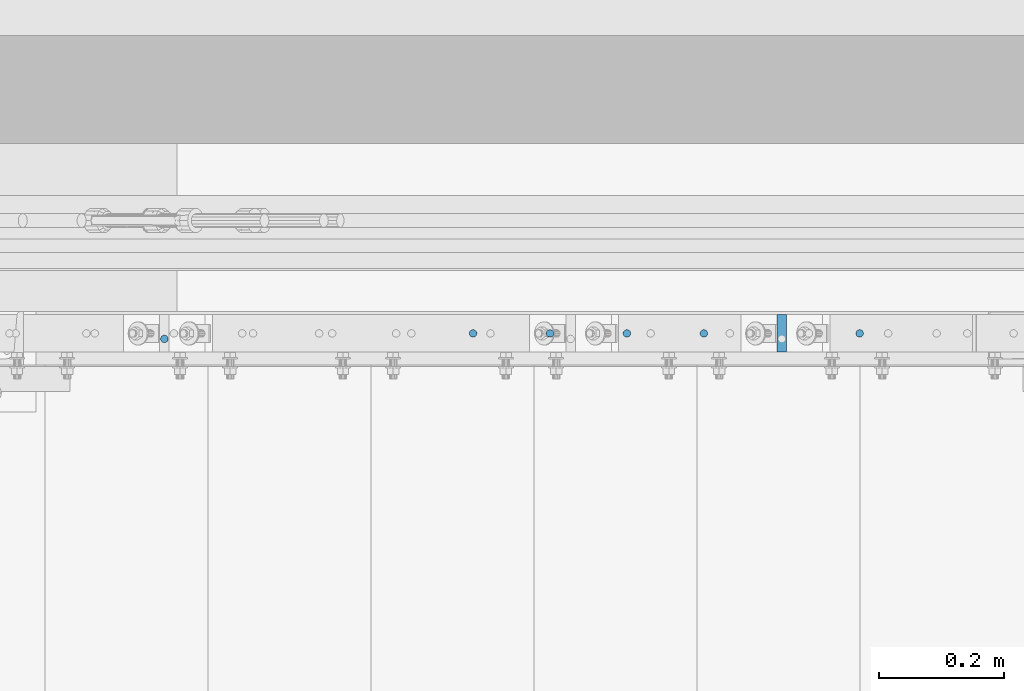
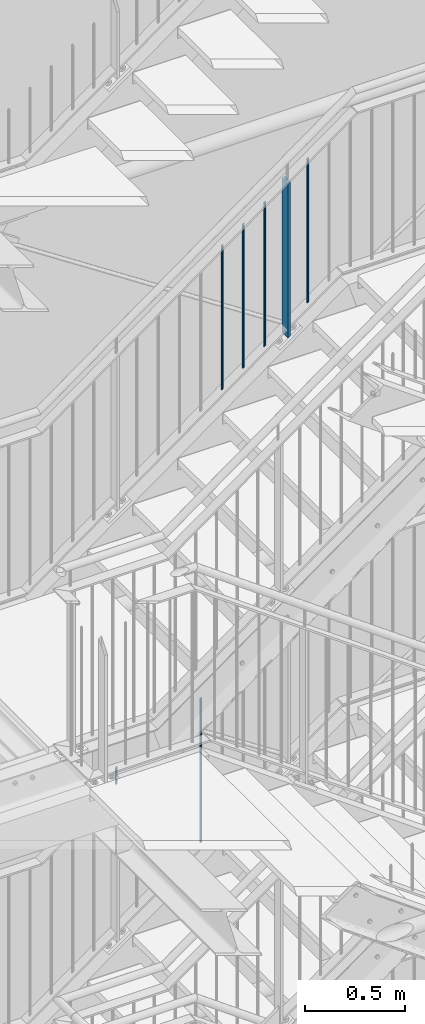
# One storey, part 78 of 831: 7 columns.
"""IFC2X3 building model written with IfcOpenShell, lengths in millimetres."""

from ifc_helpers import new_model, entity, si_unit, converted_unit, frame, origin, origin_with_axes, origin_2d, place, context, project, spatial, rectangle, circle, extrude, clip, halfspace, material, element, save


model = new_model("IFC2X3")

# Units and contexts
model_context = context("Model", 3, precision=1e-09, world=origin_with_axes())
ifc_project = project(units=[si_unit("LENGTHUNIT", "METRE", prefix="MILLI"), si_unit("AREAUNIT", "SQUARE_METRE"), si_unit("VOLUMEUNIT", "CUBIC_METRE"), converted_unit("PLANEANGLEUNIT", "DEGREE", entity("IfcPlaneAngleMeasure", 0.01745329), si_unit("PLANEANGLEUNIT", "RADIAN"), dimensions=[0, 0, 0, 0, 0, 0, 0])], contexts=[model_context])

# Site, building, storey
site_placement = place(None, origin_with_axes())
site = spatial("IfcSite", under=ifc_project, at=site_placement, Name="Site", CompositionType="ELEMENT")
building_placement = place(site_placement, origin_with_axes())
building = spatial("IfcBuilding", under=site, at=building_placement, Name="Struktur 1", CompositionType="ELEMENT")
storey_placement = place(building_placement, origin_with_axes())
storey = spatial("IfcBuildingStorey", under=building, at=storey_placement, Name="Default Storey", CompositionType="ELEMENT", Elevation=0.0)

# Columns
ifc_material = material(Name="S235JR")
column_1_placement = place(None, frame((6671.713688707, 7356.736971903, 14657.456683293), z_axis=(0.0, 0.0, 1.0), x_axis=(1.0, 0.0, 0.0)))
element("IfcColumn", 1, at=column_1_placement, inside=storey, material=ifc_material, Name="Railing_Post_Stair#2", ObjectType="Railing_Post_Stair#2", context=model_context, shape_type="Clipping", body=[
    clip(clip(extrude(rectangle(XDim=15.0, YDim=60.0, at=origin_2d()), origin(), (0.0, 0.0, -1.0), 1013.143391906), halfspace(frame((-10876.723339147, -7356.736971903, -8848.638798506), z_axis=(-0.586383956, 0.0, 0.810033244), x_axis=(0.0, -1.0, 0.0)), True)), halfspace(frame((-11321.689805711, -7356.736971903, -8233.960264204), z_axis=(0.586383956, 0.0, -0.810033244), x_axis=(0.0, 1.0, 0.0)), True)),
])
column_2_placement = place(None, frame((6301.963641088, 7356.736971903, 14362.094106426), z_axis=(0.0, 0.0, 1.0), x_axis=(1.0, 0.0, 0.0)))
element("IfcColumn", 2, at=column_2_placement, inside=storey, material=ifc_material, Name="Railing_Picket_Stair#11", ObjectType="Railing_Picket_Stair#11", context=model_context, shape_type="Clipping", body=[
    clip(clip(extrude(circle(Radius=6.0, at=origin_2d()), origin(), (0.0, 0.0, -1.0), 896.017308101), halfspace(frame((-10951.939758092, -7356.736971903, -7938.597687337), z_axis=(0.586383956, 0.0, -0.810033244), x_axis=(0.0, 1.0, 0.0)), True)), halfspace(frame((-10536.292489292, -7356.736971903, -8512.774559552), z_axis=(-0.586383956, 0.0, 0.810033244), x_axis=(0.0, -1.0, 0.0)), True)),
])
column_3_placement = place(None, frame((6424.713664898, 7356.736971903, 14450.95298356), z_axis=(0.0, 0.0, 1.0), x_axis=(1.0, 0.0, 0.0)))
element("IfcColumn", 3, at=column_3_placement, inside=storey, material=ifc_material, Name="Railing_Picket_Stair#12", ObjectType="Railing_Picket_Stair#12", context=model_context, shape_type="Clipping", body=[
    clip(clip(extrude(circle(Radius=6.0, at=origin_2d()), origin(), (0.0, 0.0, -1.0), 896.017308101), halfspace(frame((-11074.689781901, -7356.736971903, -8027.456564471), z_axis=(0.586383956, 0.0, -0.810033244), x_axis=(0.0, 1.0, 0.0)), True)), halfspace(frame((-10659.042513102, -7356.736971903, -8601.633436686), z_axis=(-0.586383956, 0.0, 0.810033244), x_axis=(0.0, -1.0, 0.0)), True)),
])
column_4_placement = place(None, frame((6547.463688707, 7356.736971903, 14539.811860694), z_axis=(0.0, 0.0, 1.0), x_axis=(1.0, 0.0, 0.0)))
element("IfcColumn", 4, at=column_4_placement, inside=storey, material=ifc_material, Name="Railing_Picket_Stair#13", ObjectType="Railing_Picket_Stair#13", context=model_context, shape_type="Clipping", body=[
    clip(clip(extrude(circle(Radius=6.0, at=origin_2d()), origin(), (0.0, 0.0, -1.0), 896.017308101), halfspace(frame((-11197.439805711, -7356.736971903, -8116.315441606), z_axis=(0.586383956, 0.0, -0.810033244), x_axis=(0.0, 1.0, 0.0)), True)), halfspace(frame((-10781.792536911, -7356.736971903, -8690.49231382), z_axis=(-0.586383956, 0.0, 0.810033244), x_axis=(0.0, -1.0, 0.0)), True)),
])
column_5_placement = place(None, frame((6795.963688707, 7356.736971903, 14719.701283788), z_axis=(0.0, 0.0, 1.0), x_axis=(1.0, 0.0, 0.0)))
element("IfcColumn", 5, at=column_5_placement, inside=storey, material=ifc_material, Name="Railing_Picket_Stair#14", ObjectType="Railing_Picket_Stair#14", context=model_context, shape_type="Clipping", body=[
    clip(clip(extrude(circle(Radius=6.0, at=origin_2d()), origin(), (0.0, 0.0, -1.0), 896.017308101), halfspace(frame((-11445.939805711, -7356.736971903, -8296.204864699), z_axis=(0.586383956, 0.0, -0.810033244), x_axis=(0.0, 1.0, 0.0)), True)), halfspace(frame((-11030.292536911, -7356.736971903, -8870.381736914), z_axis=(-0.586383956, 0.0, 0.810033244), x_axis=(0.0, -1.0, 0.0)), True)),
])
column_6_placement = place(None, frame((6179.213617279, 7356.736971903, 11644.193044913), z_axis=(0.0, 0.0, 1.0), x_axis=(1.0, 0.0, 0.0)))
element("IfcColumn", 6, at=column_6_placement, inside=storey, material=ifc_material, Name="Railing_Picket_Stair#10", ObjectType="Railing_Picket_Stair#10", context=model_context, shape_type="Clipping", body=[
    clip(clip(extrude(circle(Radius=6.0, at=origin_2d()), origin(), (0.0, 0.0, -1.0), 896.125751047), halfspace(frame((-9583.626906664, -7356.736971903, -6927.000669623), z_axis=(0.585213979, 0.0, -0.810878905), x_axis=(0.0, 1.0, 0.0)), True)), halfspace(frame((-9168.314061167, -7356.736971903, -7502.462701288), z_axis=(-0.585213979, 0.0, 0.810878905), x_axis=(0.0, -1.0, 0.0)), True)),
])
column_7_placement = place(None, frame((5686.71354585, 7347.936971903, 11401.086417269), z_axis=(0.0, 0.0, 1.0), x_axis=(0.0, -1.0, 0.0)))
element("IfcColumn", 7, at=column_7_placement, inside=storey, material=ifc_material, Name="Bar#1", ObjectType="Bar#1", context=model_context, shape_type="Clipping", body=[
    clip(clip(extrude(circle(Radius=6.0, at=origin_2d()), origin(), (0.0, 0.0, -1.0), 120.928603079), halfspace(frame((7347.936971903, -9096.980145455, -6675.78363117), z_axis=(0.0, -0.585213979, 0.810878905), x_axis=(1.0, 0.0, 0.0)), True)), halfspace(frame((7347.936971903, -9144.432742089, -6610.032793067), z_axis=(0.0, 0.585213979, -0.810878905), x_axis=(-1.0, 0.0, 0.0)), True)),
])

save(model, "model.ifc")
